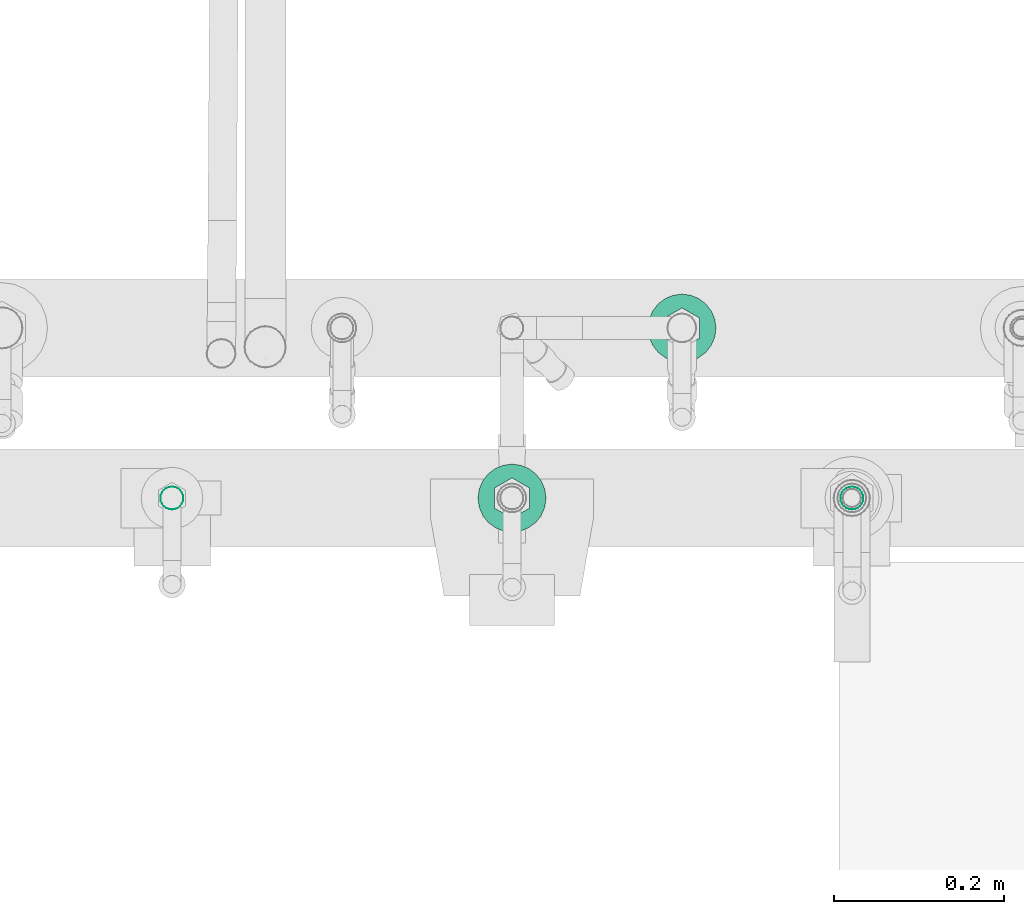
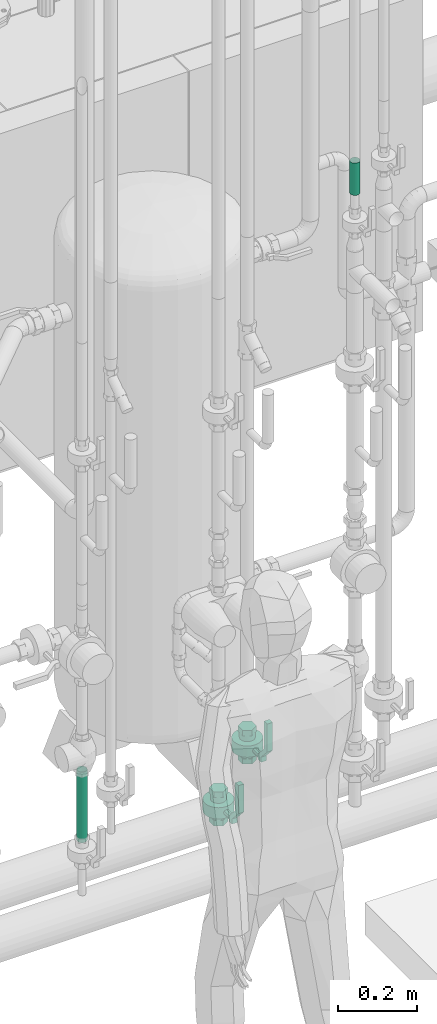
# One storey, part 102 of 374: 2 flow controllers, 2 flow segments.
"""IFC2X3 building model written with IfcOpenShell, lengths in metres."""

from ifc_helpers import new_model, si_unit, direction, origin, place, context, subcontext, project, spatial, open_shell, surface_model, source, transform, mapped, element, save


model = new_model("IFC2X3")

# Units and contexts
model_context = context("Model", 3, precision=1e-05, world=origin(), true_north=direction((-0.4480736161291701, 0.8939966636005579)))
body_context = subcontext(model_context, "Body", "Model", "MODEL_VIEW")
ifc_project = project(units=[si_unit("LENGTHUNIT", "METRE"), si_unit("AREAUNIT", "SQUARE_METRE"), si_unit("VOLUMEUNIT", "CUBIC_METRE"), si_unit("PLANEANGLEUNIT", "RADIAN"), si_unit("THERMODYNAMICTEMPERATUREUNIT", "KELVIN"), si_unit("MASSUNIT", "GRAM", prefix="KILO"), si_unit("TIMEUNIT", "SECOND")], contexts=[model_context])

# Site, building, storey
site_placement = place(None, origin())
site = spatial("IfcSite", under=ifc_project, at=site_placement, Name="Site 1", CompositionType="ELEMENT")
building_placement = place(site_placement, origin())
building = spatial("IfcBuilding", under=site, at=building_placement, Name="Undefined", CompositionType="ELEMENT")
storey_placement = place(building_placement, origin())
storey = spatial("IfcBuildingStorey", under=building, at=storey_placement, Name="Rez de chauss\x8ee", CompositionType="ELEMENT", Elevation=0.0)

# Flow controllers
shared_shape_1 = source(origin(), body_context, "Body", "SurfaceModel", [
    surface_model("IfcFaceBasedSurfaceModel", [(0.0, 0.0, 0.0), (0.016000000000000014, 0.0, 0.0), (0.016000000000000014, 0.015999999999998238, 0.0), (0.0, 0.015999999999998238, 0.0), (0.016000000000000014, 0.0, 0.016000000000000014), (0.016000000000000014, 0.015999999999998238, 0.016000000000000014), (0.0, 0.0, 0.016000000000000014), (0.0, 0.015999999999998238, 0.016000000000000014), (-0.03533333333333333, 0.0, 0.04800000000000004), (-0.03533333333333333, 0.015999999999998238, 0.04800000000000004), (-0.122, 0.0, 0.04800000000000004), (-0.122, 0.015999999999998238, 0.04800000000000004), (-0.122, 0.0, 0.03200000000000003), (-0.122, 0.015999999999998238, 0.03200000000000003), (-0.03533333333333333, 0.0, 0.03200000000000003), (-0.03533333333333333, 0.015999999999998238, 0.03200000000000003), (0.060500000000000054, 0.02850000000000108, -0.0788356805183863), (0.060500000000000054, 0.02850000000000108, -0.05516431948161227), (0.04370000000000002, 0.02850000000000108, -0.05516431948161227), (0.04370000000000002, 0.02850000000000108, -0.0788356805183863), (0.060500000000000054, 0.008000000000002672, -0.0906713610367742), (0.04370000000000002, 0.008000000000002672, -0.0906713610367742), (0.060500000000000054, -0.012500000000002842, -0.0788356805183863), (0.04370000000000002, -0.012500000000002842, -0.0788356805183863), (0.060500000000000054, -0.012500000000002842, -0.05516431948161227), (0.04370000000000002, -0.012500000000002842, -0.05516431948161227), (0.060500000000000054, 0.008000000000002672, -0.043328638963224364), (0.04370000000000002, 0.008000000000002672, -0.043328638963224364), (0.04370000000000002, -0.012500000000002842, -0.06700000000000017), (0.04370000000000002, -0.011801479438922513, -0.06169420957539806), (0.025500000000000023, -0.011801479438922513, -0.06169420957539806), (0.025500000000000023, -0.012500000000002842, -0.06700000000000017), (0.04370000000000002, -0.009753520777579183, -0.05674999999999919), (0.025500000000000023, -0.009753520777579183, -0.05674999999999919), (0.04370000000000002, -0.006495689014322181, -0.05250431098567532), (0.025500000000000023, -0.006495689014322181, -0.05250431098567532), (0.04370000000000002, -0.002250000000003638, -0.049246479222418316), (0.025500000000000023, -0.002250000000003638, -0.049246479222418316), (0.04370000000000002, 0.0026942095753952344, -0.04719852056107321), (0.025500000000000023, 0.0026942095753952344, -0.04719852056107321), (0.04370000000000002, 0.008000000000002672, -0.046499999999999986), (0.025500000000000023, 0.008000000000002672, -0.046499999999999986), (0.04370000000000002, 0.013305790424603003, -0.04719852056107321), (0.025500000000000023, 0.013305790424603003, -0.04719852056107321), (0.04370000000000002, 0.018250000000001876, -0.049246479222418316), (0.025500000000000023, 0.018250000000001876, -0.049246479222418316), (0.04370000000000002, 0.02249568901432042, -0.05250431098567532), (0.025500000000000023, 0.02249568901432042, -0.05250431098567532), (0.04370000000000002, 0.02575352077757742, -0.05674999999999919), (0.025500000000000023, 0.02575352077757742, -0.05674999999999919), (0.04370000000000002, 0.02780147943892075, -0.06169420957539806), (0.025500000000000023, 0.02780147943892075, -0.06169420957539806), (0.04370000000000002, 0.02850000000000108, -0.06700000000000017), (0.025500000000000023, 0.02850000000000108, -0.06700000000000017), (0.04370000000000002, 0.02780147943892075, -0.0723057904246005), (0.025500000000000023, 0.02780147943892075, -0.0723057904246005), (0.04370000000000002, 0.02575352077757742, -0.07724999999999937), (0.025500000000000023, 0.02575352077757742, -0.07724999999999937), (0.04370000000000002, 0.02249568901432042, -0.08149568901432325), (0.025500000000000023, 0.02249568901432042, -0.08149568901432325), (0.04370000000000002, 0.018250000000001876, -0.08475352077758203), (0.025500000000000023, 0.018250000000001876, -0.08475352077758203), (0.04370000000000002, 0.013305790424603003, -0.08680147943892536), (0.025500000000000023, 0.013305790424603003, -0.08680147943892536), (0.04370000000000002, 0.008000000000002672, -0.08749999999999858), (0.025500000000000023, 0.008000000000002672, -0.08749999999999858), (0.04370000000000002, 0.0026942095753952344, -0.08680147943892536), (0.025500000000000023, 0.0026942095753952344, -0.08680147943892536), (0.04370000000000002, -0.002250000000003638, -0.08475352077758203), (0.025500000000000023, -0.002250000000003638, -0.08475352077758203), (0.04370000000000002, -0.006495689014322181, -0.08149568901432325), (0.025500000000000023, -0.006495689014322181, -0.08149568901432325), (0.04370000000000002, -0.009753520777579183, -0.07724999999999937), (0.025500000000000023, -0.009753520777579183, -0.07724999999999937), (0.04370000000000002, -0.011801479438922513, -0.0723057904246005), (0.025500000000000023, -0.011801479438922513, -0.0723057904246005), (0.025500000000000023, -0.03200000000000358, -0.06700000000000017), (0.025500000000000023, -0.030637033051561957, -0.05664723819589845), (-0.009499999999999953, -0.030637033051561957, -0.05664723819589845), (-0.009499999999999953, -0.03200000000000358, -0.06700000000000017), (0.025500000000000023, -0.02664101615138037, -0.04699999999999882), (-0.009499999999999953, -0.02664101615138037, -0.04699999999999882), (0.025500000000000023, -0.020284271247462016, -0.03871572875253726), (-0.009499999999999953, -0.020284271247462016, -0.03871572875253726), (0.025500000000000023, -0.012000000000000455, -0.03235898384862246), (-0.009499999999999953, -0.012000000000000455, -0.03235898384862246), (0.025500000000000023, -0.002352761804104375, -0.028362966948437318), (-0.009499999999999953, -0.002352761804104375, -0.028362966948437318), (0.025500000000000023, 0.008000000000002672, -0.026999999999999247), (-0.009499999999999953, 0.008000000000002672, -0.026999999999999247), (0.025500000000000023, 0.018352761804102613, -0.028362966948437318), (-0.009499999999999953, 0.018352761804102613, -0.028362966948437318), (0.025500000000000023, 0.027999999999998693, -0.03235898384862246), (-0.009499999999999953, 0.027999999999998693, -0.03235898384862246), (0.025500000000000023, 0.036284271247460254, -0.03871572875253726), (-0.009499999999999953, 0.036284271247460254, -0.03871572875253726), (0.025500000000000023, 0.04264101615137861, -0.04699999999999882), (-0.009499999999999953, 0.04264101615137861, -0.04699999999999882), (0.025500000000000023, 0.046637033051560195, -0.05664723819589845), (-0.009499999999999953, 0.046637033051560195, -0.05664723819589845), (0.025500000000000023, 0.04800000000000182, -0.06700000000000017), (-0.009499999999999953, 0.04800000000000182, -0.06700000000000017), (0.025500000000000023, 0.046637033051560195, -0.07735276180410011), (-0.009499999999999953, 0.046637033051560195, -0.07735276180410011), (0.025500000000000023, 0.04264101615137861, -0.08699999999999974), (-0.009499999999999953, 0.04264101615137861, -0.08699999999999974), (0.025500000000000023, 0.036284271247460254, -0.0952842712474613), (-0.009499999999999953, 0.036284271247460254, -0.0952842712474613), (0.025500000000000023, 0.027999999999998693, -0.10164101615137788), (-0.009499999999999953, 0.027999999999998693, -0.10164101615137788), (0.025500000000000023, 0.018352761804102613, -0.10563703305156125), (-0.009499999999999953, 0.018352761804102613, -0.10563703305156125), (0.025500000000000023, 0.008000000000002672, -0.10699999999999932), (-0.009499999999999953, 0.008000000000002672, -0.10699999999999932), (0.025500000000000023, -0.002352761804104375, -0.10563703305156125), (-0.009499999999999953, -0.002352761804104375, -0.10563703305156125), (0.025500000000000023, -0.012000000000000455, -0.10164101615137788), (-0.009499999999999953, -0.012000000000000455, -0.10164101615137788), (0.025500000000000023, -0.020284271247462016, -0.0952842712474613), (-0.009499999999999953, -0.020284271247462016, -0.0952842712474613), (0.025500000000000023, -0.02664101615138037, -0.08699999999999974), (-0.009499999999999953, -0.02664101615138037, -0.08699999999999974), (0.025500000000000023, -0.030637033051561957, -0.07735276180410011), (-0.009499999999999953, -0.030637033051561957, -0.07735276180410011), (0.025500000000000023, 0.008000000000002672, -0.06700000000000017), (-0.009499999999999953, 0.008000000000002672, -0.06700000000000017), (-0.009499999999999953, -0.012500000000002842, -0.06700000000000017), (-0.009499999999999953, -0.011801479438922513, -0.06169420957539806), (-0.027699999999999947, -0.011801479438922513, -0.06169420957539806), (-0.027699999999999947, -0.012500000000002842, -0.06700000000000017), (-0.009499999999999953, -0.009753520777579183, -0.05674999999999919), (-0.027699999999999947, -0.009753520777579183, -0.05674999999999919), (-0.009499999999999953, -0.006495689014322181, -0.05250431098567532), (-0.027699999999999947, -0.006495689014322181, -0.05250431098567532), (-0.009499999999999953, -0.002250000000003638, -0.049246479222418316), (-0.027699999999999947, -0.002250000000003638, -0.049246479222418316), (-0.009499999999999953, 0.0026942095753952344, -0.04719852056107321), (-0.027699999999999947, 0.0026942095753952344, -0.04719852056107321), (-0.009499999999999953, 0.008000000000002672, -0.046499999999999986), (-0.027699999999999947, 0.008000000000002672, -0.046499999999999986), (-0.009499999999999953, 0.013305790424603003, -0.04719852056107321), (-0.027699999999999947, 0.013305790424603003, -0.04719852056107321), (-0.009499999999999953, 0.018250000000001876, -0.049246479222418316), (-0.027699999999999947, 0.018250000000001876, -0.049246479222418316), (-0.009499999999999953, 0.02249568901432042, -0.05250431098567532), (-0.027699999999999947, 0.02249568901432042, -0.05250431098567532), (-0.009499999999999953, 0.02575352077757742, -0.05674999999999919), (-0.027699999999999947, 0.02575352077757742, -0.05674999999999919), (-0.009499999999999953, 0.02780147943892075, -0.06169420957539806), (-0.027699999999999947, 0.02780147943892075, -0.06169420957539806), (-0.009499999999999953, 0.02850000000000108, -0.06700000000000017), (-0.027699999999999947, 0.02850000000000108, -0.06700000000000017), (-0.009499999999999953, 0.02780147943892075, -0.0723057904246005), (-0.027699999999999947, 0.02780147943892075, -0.0723057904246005), (-0.009499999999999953, 0.02575352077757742, -0.07724999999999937), (-0.027699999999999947, 0.02575352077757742, -0.07724999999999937), (-0.009499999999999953, 0.02249568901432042, -0.08149568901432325), (-0.027699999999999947, 0.02249568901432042, -0.08149568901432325), (-0.009499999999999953, 0.018250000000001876, -0.08475352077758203), (-0.027699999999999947, 0.018250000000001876, -0.08475352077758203), (-0.009499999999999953, 0.013305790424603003, -0.08680147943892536), (-0.027699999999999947, 0.013305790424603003, -0.08680147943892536), (-0.009499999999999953, 0.008000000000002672, -0.08749999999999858), (-0.027699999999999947, 0.008000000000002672, -0.08749999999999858), (-0.009499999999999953, 0.0026942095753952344, -0.08680147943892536), (-0.027699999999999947, 0.0026942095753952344, -0.08680147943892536), (-0.009499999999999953, -0.002250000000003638, -0.08475352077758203), (-0.027699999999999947, -0.002250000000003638, -0.08475352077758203), (-0.009499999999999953, -0.006495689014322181, -0.08149568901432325), (-0.027699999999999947, -0.006495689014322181, -0.08149568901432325), (-0.009499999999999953, -0.009753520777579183, -0.07724999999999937), (-0.027699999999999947, -0.009753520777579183, -0.07724999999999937), (-0.009499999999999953, -0.011801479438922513, -0.0723057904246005), (-0.027699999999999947, -0.011801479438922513, -0.0723057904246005), (-0.027699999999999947, 0.02850000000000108, -0.0788356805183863), (-0.027699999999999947, 0.02850000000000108, -0.05516431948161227), (-0.04449999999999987, 0.02850000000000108, -0.05516431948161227), (-0.04449999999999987, 0.02850000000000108, -0.0788356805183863), (-0.027699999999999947, 0.008000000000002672, -0.0906713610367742), (-0.04449999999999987, 0.008000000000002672, -0.0906713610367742), (-0.027699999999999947, -0.012500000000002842, -0.0788356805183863), (-0.04449999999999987, -0.012500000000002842, -0.0788356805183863), (-0.027699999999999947, -0.012500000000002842, -0.05516431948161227), (-0.04449999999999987, -0.012500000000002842, -0.05516431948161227), (-0.027699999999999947, 0.008000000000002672, -0.043328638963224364), (-0.04449999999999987, 0.008000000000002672, -0.043328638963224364), (0.0, 0.008000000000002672, -0.06700000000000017), (0.002343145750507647, 0.002343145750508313, -0.06700000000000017), (0.002343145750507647, 0.002343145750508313, 0.0), (0.0, 0.008, 0.0), (0.008000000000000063, 0.0, -0.06700000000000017), (0.008000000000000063, 0.0, 0.0), (0.013656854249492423, 0.002343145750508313, -0.06700000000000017), (0.013656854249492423, 0.002343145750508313, 0.0), (0.016000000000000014, 0.008000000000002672, -0.06700000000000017), (0.016000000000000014, 0.008000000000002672, 0.0), (0.013656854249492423, 0.013656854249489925, -0.06700000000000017), (0.013656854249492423, 0.013656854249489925, 0.0), (0.008000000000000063, 0.015999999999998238, -0.06700000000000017), (0.008000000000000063, 0.015999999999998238, 0.0), (0.002343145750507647, 0.013656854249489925, -0.06700000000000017), (0.002343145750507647, 0.013656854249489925, 0.0)], [open_shell([[[0, 1, 2, 3]], [[1, 4, 5, 2]], [[4, 6, 7, 5]], [[6, 8, 9, 7]], [[8, 10, 11, 9]], [[10, 12, 13, 11]], [[12, 14, 15, 13]], [[14, 0, 3, 15]], [[3, 7, 2]], [[7, 3, 9]], [[15, 9, 3]], [[9, 15, 11]], [[13, 11, 15]], [[5, 2, 7]], [[1, 6, 0]], [[8, 0, 6]], [[0, 8, 14]], [[10, 14, 8]], [[14, 10, 12]], [[6, 1, 4]], [[16, 17, 18, 19]], [[20, 16, 19, 21]], [[22, 20, 21, 23]], [[24, 22, 23, 25]], [[26, 24, 25, 27]], [[17, 26, 27, 18]], [[17, 16, 20]], [[17, 20, 22]], [[17, 22, 24]], [[17, 24, 26]], [[18, 21, 19]], [[18, 23, 21]], [[18, 25, 23]], [[18, 27, 25]], [[28, 29, 30, 31]], [[29, 32, 33, 30]], [[32, 34, 35, 33]], [[34, 36, 37, 35]], [[36, 38, 39, 37]], [[38, 40, 41, 39]], [[40, 42, 43, 41]], [[42, 44, 45, 43]], [[44, 46, 47, 45]], [[46, 48, 49, 47]], [[48, 50, 51, 49]], [[50, 52, 53, 51]], [[52, 54, 55, 53]], [[54, 56, 57, 55]], [[56, 58, 59, 57]], [[58, 60, 61, 59]], [[60, 62, 63, 61]], [[62, 64, 65, 63]], [[64, 66, 67, 65]], [[66, 68, 69, 67]], [[68, 70, 71, 69]], [[70, 72, 73, 71]], [[72, 74, 75, 73]], [[74, 28, 31, 75]], [[76, 77, 78, 79]], [[77, 80, 81, 78]], [[80, 82, 83, 81]], [[82, 84, 85, 83]], [[84, 86, 87, 85]], [[86, 88, 89, 87]], [[88, 90, 91, 89]], [[90, 92, 93, 91]], [[92, 94, 95, 93]], [[94, 96, 97, 95]], [[96, 98, 99, 97]], [[98, 100, 101, 99]], [[100, 102, 103, 101]], [[102, 104, 105, 103]], [[104, 106, 107, 105]], [[106, 108, 109, 107]], [[108, 110, 111, 109]], [[110, 112, 113, 111]], [[112, 114, 115, 113]], [[114, 116, 117, 115]], [[116, 118, 119, 117]], [[118, 120, 121, 119]], [[120, 122, 123, 121]], [[122, 76, 79, 123]], [[124, 77, 76]], [[124, 80, 77]], [[124, 82, 80]], [[124, 84, 82]], [[124, 86, 84]], [[124, 88, 86]], [[124, 90, 88]], [[124, 92, 90]], [[124, 94, 92]], [[124, 96, 94]], [[124, 98, 96]], [[124, 100, 98]], [[124, 102, 100]], [[124, 104, 102]], [[124, 106, 104]], [[124, 108, 106]], [[124, 110, 108]], [[124, 112, 110]], [[124, 114, 112]], [[124, 116, 114]], [[124, 118, 116]], [[124, 120, 118]], [[124, 122, 120]], [[124, 76, 122]], [[125, 123, 79]], [[125, 121, 123]], [[125, 119, 121]], [[125, 117, 119]], [[125, 115, 117]], [[125, 113, 115]], [[125, 111, 113]], [[125, 109, 111]], [[125, 107, 109]], [[125, 105, 107]], [[125, 103, 105]], [[125, 101, 103]], [[125, 99, 101]], [[125, 97, 99]], [[125, 95, 97]], [[125, 93, 95]], [[125, 91, 93]], [[125, 89, 91]], [[125, 87, 89]], [[125, 85, 87]], [[125, 83, 85]], [[125, 81, 83]], [[125, 78, 81]], [[125, 79, 78]], [[126, 127, 128, 129]], [[127, 130, 131, 128]], [[130, 132, 133, 131]], [[132, 134, 135, 133]], [[134, 136, 137, 135]], [[136, 138, 139, 137]], [[138, 140, 141, 139]], [[140, 142, 143, 141]], [[142, 144, 145, 143]], [[144, 146, 147, 145]], [[146, 148, 149, 147]], [[148, 150, 151, 149]], [[150, 152, 153, 151]], [[152, 154, 155, 153]], [[154, 156, 157, 155]], [[156, 158, 159, 157]], [[158, 160, 161, 159]], [[160, 162, 163, 161]], [[162, 164, 165, 163]], [[164, 166, 167, 165]], [[166, 168, 169, 167]], [[168, 170, 171, 169]], [[170, 172, 173, 171]], [[172, 126, 129, 173]], [[174, 175, 176, 177]], [[178, 174, 177, 179]], [[180, 178, 179, 181]], [[182, 180, 181, 183]], [[184, 182, 183, 185]], [[175, 184, 185, 176]], [[175, 174, 178]], [[175, 178, 180]], [[175, 180, 182]], [[175, 182, 184]], [[176, 179, 177]], [[176, 181, 179]], [[176, 183, 181]], [[176, 185, 183]], [[186, 187, 188, 189]], [[187, 190, 191, 188]], [[190, 192, 193, 191]], [[192, 194, 195, 193]], [[194, 196, 197, 195]], [[196, 198, 199, 197]], [[198, 200, 201, 199]], [[200, 186, 189, 201]]])]),
])
flow_controller_1_placement = place(storey_placement, origin())
element("IfcFlowController", 1, at=flow_controller_1_placement, inside=storey, Name="Robinet à boisseau sphérique", ObjectType="Robinet à boisseau sphérique", context=body_context, shape_type="MappedRepresentation", body=[
    mapped(shared_shape_1, transform((53.4495620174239, 10.851037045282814, 0.5008499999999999), x_axis=(0.0, 0.0, -1.0), y_axis=(1.0, 0.0, 0.0), z_axis=(0.0, -1.0, 0.0))),
])
flow_controller_2_placement = place(storey_placement, origin())
element("IfcFlowController", 2, at=flow_controller_2_placement, inside=storey, Name="Robinet à boisseau sphérique", ObjectType="Robinet à boisseau sphérique", context=body_context, shape_type="MappedRepresentation", body=[
    mapped(shared_shape_1, transform((53.24956201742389, 10.651037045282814, 0.5008500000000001), x_axis=(0.0, 0.0, -1.0), y_axis=(1.0, 0.0, 0.0), z_axis=(0.0, -1.0, 0.0))),
])

# Flow segments
shared_shape_2 = source(origin(), body_context, "Body", "SurfaceModel", [
    surface_model("IfcFaceBasedSurfaceModel", [(0.0, 0.0035111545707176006, 0.0), (0.0, 0.0, 0.0), (0.10000000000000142, 8.8817842e-16, 1.776356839e-15), (0.10000000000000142, 0.003511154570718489, -1.66533454e-16), (0.0, -0.003391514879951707, -0.0009087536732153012), (0.09999999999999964, -0.003391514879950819, -0.0009087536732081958), (0.0, -0.006432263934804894, -0.0026643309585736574), (0.09999999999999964, -0.006432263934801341, -0.002664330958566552), (0.0, -0.00891502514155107, -0.005147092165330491), (0.09999999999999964, -0.008915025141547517, -0.005147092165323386), (0.0, -0.010670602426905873, -0.008187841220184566), (0.09999999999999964, -0.01067060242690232, -0.00818784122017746), (0.0, -0.011579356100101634, -0.01157935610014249), (0.09999999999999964, -0.011579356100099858, -0.01157935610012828), (0.0, -0.011579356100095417, -0.015090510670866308), (0.09999999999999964, -0.011579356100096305, -0.015090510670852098), (0.0, -0.010670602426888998, -0.018482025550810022), (0.09999999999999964, -0.01067060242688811, -0.018482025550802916), (0.0, -0.008915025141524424, -0.021522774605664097), (0.09999999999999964, -0.008915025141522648, -0.02152277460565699), (0.0, -0.006432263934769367, -0.02400553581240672), (0.09999999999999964, -0.006432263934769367, -0.024005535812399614), (0.0, -0.0033915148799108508, -0.025761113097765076), (0.09999999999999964, -0.0033915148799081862, -0.02576111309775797), (0.0, 4.2632564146e-14, -0.026669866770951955), (0.10000000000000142, 1.776356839e-15, -0.026669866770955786), (0.0, 0.0035111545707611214, -0.026669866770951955), (0.09999999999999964, 0.0035111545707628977, -0.02666986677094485), (0.0, 0.006902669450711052, -0.02576111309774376), (0.09999999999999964, 0.0069026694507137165, -0.025761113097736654), (0.0, 0.00994341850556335, -0.024005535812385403), (0.09999999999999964, 0.009943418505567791, -0.024005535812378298), (0.0, 0.012426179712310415, -0.02152277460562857), (0.09999999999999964, 0.012426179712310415, -0.021522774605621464), (0.0, 0.014181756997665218, -0.018482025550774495), (0.09999999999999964, 0.014181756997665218, -0.018482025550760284), (0.0, 0.015090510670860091, -0.01509051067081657), (0.09999999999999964, 0.015090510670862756, -0.01509051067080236), (0.0, 0.015090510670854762, -0.011579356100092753), (0.09999999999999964, 0.01509051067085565, -0.011579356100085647), (0.0, 0.014181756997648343, -0.00818784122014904), (0.09999999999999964, 0.014181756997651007, -0.008187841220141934), (0.0, 0.012426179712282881, -0.005147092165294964), (0.09999999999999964, 0.012426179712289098, -0.005147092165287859), (0.0, 0.009943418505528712, -0.002664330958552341), (0.09999999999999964, 0.009943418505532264, -0.0026643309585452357), (0.0, 0.006902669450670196, -0.0009087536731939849), (0.09999999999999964, 0.006902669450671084, -0.0009087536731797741)], [open_shell([[[0, 1, 2, 3]], [[1, 4, 5, 2]], [[4, 6, 7, 5]], [[6, 8, 9, 7]], [[8, 10, 11, 9]], [[10, 12, 13, 11]], [[12, 14, 15, 13]], [[14, 16, 17, 15]], [[16, 18, 19, 17]], [[18, 20, 21, 19]], [[20, 22, 23, 21]], [[22, 24, 25, 23]], [[24, 26, 27, 25]], [[26, 28, 29, 27]], [[28, 30, 31, 29]], [[30, 32, 33, 31]], [[32, 34, 35, 33]], [[34, 36, 37, 35]], [[36, 38, 39, 37]], [[38, 40, 41, 39]], [[40, 42, 43, 41]], [[42, 44, 45, 43]], [[44, 46, 47, 45]], [[46, 0, 3, 47]]])]),
])
flow_segment_1_placement = place(storey_placement, origin())
element("IfcFlowSegment", 3, at=flow_segment_1_placement, inside=storey, Name="Tube acier d'après DIN 2448", ObjectType="Tube acier d'après DIN 2448", context=body_context, shape_type="MappedRepresentation", body=[
    mapped(shared_shape_2, transform((53.644570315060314, 10.721518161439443, 2.3491915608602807), x_axis=(0.0, 0.0, -1.0), y_axis=(-0.13052619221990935, -0.9914448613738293, 0.0), z_axis=(-0.9914448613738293, 0.13052619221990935, 0.0))),
])
shared_shape_3 = source(origin(), body_context, "Body", "SurfaceModel", [
    surface_model("IfcFaceBasedSurfaceModel", [(0.0, 0.0035111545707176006, 0.0), (0.0, 0.0, 0.0), (0.21931296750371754, 1.776356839e-15, 7.105427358e-15), (0.21931296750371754, 0.003511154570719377, 7.105427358e-15), (0.0, -0.003391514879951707, -0.0009087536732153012), (0.21931296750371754, -0.0033915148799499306, -0.0009087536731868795), (0.0, -0.006432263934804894, -0.0026643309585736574), (0.21931296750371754, -0.006432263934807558, -0.0026643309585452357), (0.0, -0.00891502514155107, -0.005147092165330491), (0.21931296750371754, -0.008915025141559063, -0.00514709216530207), (0.0, -0.010670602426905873, -0.008187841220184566), (0.21931296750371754, -0.010670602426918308, -0.00818784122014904), (0.0, -0.011579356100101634, -0.01157935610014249), (0.21931296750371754, -0.01157935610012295, -0.011579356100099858), (0.0, -0.011579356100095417, -0.015090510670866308), (0.21931296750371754, -0.01157935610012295, -0.015090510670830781), (0.0, -0.010670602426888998, -0.018482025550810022), (0.21931296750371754, -0.010670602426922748, -0.01848202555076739), (0.0, -0.008915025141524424, -0.021522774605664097), (0.21931296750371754, -0.008915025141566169, -0.021522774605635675), (0.0, -0.006432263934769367, -0.02400553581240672), (0.21931296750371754, -0.00643226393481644, -0.024005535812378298), (0.0, -0.0033915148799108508, -0.025761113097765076), (0.21931296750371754, -0.0033915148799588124, -0.02576111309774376), (0.0, 4.2632564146e-14, -0.026669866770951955), (0.21931296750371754, -9.769962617e-15, -0.02666986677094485), (0.0, 0.0035111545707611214, -0.026669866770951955), (0.21931296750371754, 0.003511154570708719, -0.026669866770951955), (0.0, 0.006902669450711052, -0.02576111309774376), (0.21931296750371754, 0.006902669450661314, -0.02576111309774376), (0.0, 0.00994341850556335, -0.024005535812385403), (0.21931296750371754, 0.009943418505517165, -0.02400553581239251), (0.0, 0.012426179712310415, -0.02152277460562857), (0.21931296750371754, 0.012426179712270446, -0.021522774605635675), (0.0, 0.014181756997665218, -0.018482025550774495), (0.21931296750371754, 0.014181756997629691, -0.018482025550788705), (0.0, 0.015090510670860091, -0.01509051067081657), (0.21931296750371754, 0.015090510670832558, -0.015090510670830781), (0.0, 0.015090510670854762, -0.011579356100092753), (0.21931296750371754, 0.015090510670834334, -0.011579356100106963), (0.0, 0.014181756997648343, -0.00818784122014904), (0.21931296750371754, 0.014181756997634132, -0.008187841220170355), (0.0, 0.012426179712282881, -0.005147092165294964), (0.21931296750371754, 0.012426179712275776, -0.00514709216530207), (0.0, 0.009943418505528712, -0.002664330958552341), (0.21931296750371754, 0.009943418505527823, -0.002664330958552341), (0.0, 0.006902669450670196, -0.0009087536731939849), (0.21931296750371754, 0.006902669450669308, -0.0009087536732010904)], [open_shell([[[0, 1, 2, 3]], [[1, 4, 5, 2]], [[4, 6, 7, 5]], [[6, 8, 9, 7]], [[8, 10, 11, 9]], [[10, 12, 13, 11]], [[12, 14, 15, 13]], [[14, 16, 17, 15]], [[16, 18, 19, 17]], [[18, 20, 21, 19]], [[20, 22, 23, 21]], [[22, 24, 25, 23]], [[24, 26, 27, 25]], [[26, 28, 29, 27]], [[28, 30, 31, 29]], [[30, 32, 33, 31]], [[32, 34, 35, 33]], [[34, 36, 37, 35]], [[36, 38, 39, 37]], [[38, 40, 41, 39]], [[40, 42, 43, 41]], [[42, 44, 45, 43]], [[44, 46, 47, 45]], [[46, 0, 3, 47]]])]),
])
flow_segment_2_placement = place(storey_placement, origin())
element("IfcFlowSegment", 4, at=flow_segment_2_placement, inside=storey, Name="Tube acier d'après DIN 2448", ObjectType="Tube acier d'après DIN 2448", context=body_context, shape_type="MappedRepresentation", body=[
    mapped(shared_shape_3, transform((52.87055371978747, 10.72151816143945, 0.5231500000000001), x_axis=(0.0, 0.0, 1.0), y_axis=(0.13052619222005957, -0.9914448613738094, 0.0), z_axis=(0.9914448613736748, 0.13052619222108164, 0.0))),
])

save(model, "model.ifc")
